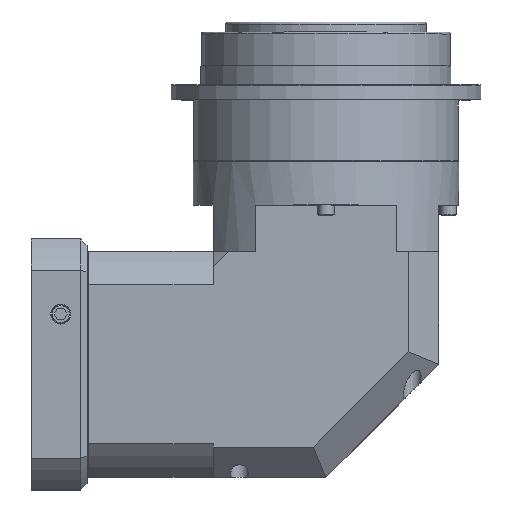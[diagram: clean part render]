
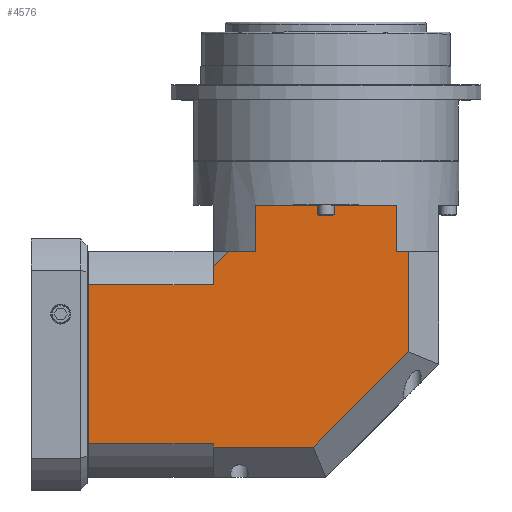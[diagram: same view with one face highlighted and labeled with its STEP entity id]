
A CAD part, top view. The second image highlights one B-rep face of the part: STEP entity #4576.
In plain terms, the highlighted planar face has unit normal (0, 0, 1).
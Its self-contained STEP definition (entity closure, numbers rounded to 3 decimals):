
#4218=CARTESIAN_POINT('',(-56.,90.,90.));
#4219=VERTEX_POINT('',#4218);
#4227=CARTESIAN_POINT('',(-56.,127.,90.));
#4228=VERTEX_POINT('',#4227);
#4229=CARTESIAN_POINT('',(-56.,90.,90.0));
#4230=DIRECTION('',(0.0,1.0,0.0));
#4231=VECTOR('',#4230,37.);
#4232=LINE('',#4229,#4231);
#4233=EDGE_CURVE('',#4219,#4228,#4232,.T.);
#4235=CARTESIAN_POINT('',(56.,127.,90.));
#4236=VERTEX_POINT('',#4235);
#4244=CARTESIAN_POINT('',(56.,90.,90.));
#4245=VERTEX_POINT('',#4244);
#4246=CARTESIAN_POINT('',(56.,127.,90.));
#4247=DIRECTION('',(0.0,-1.0,0.0));
#4248=VECTOR('',#4247,37.);
#4249=LINE('',#4246,#4248);
#4250=EDGE_CURVE('',#4236,#4245,#4249,.T.);
#4434=CARTESIAN_POINT('',(-78.,90.,90.));
#4435=VERTEX_POINT('',#4434);
#4442=CARTESIAN_POINT('',(-78.,90.,90.0));
#4443=DIRECTION('',(1.0,0.0,0.0));
#4444=VECTOR('',#4443,22.);
#4445=LINE('',#4442,#4444);
#4446=EDGE_CURVE('',#4435,#4219,#4445,.T.);
#4464=CARTESIAN_POINT('',(-90.0,78.,90.0));
#4465=VERTEX_POINT('',#4464);
#4466=CARTESIAN_POINT('',(-90.,63.246,90.0));
#4467=VERTEX_POINT('',#4466);
#4468=CARTESIAN_POINT('',(-90.0,78.,90.0));
#4469=DIRECTION('',(0.0,-1.0,0.0));
#4470=VECTOR('',#4469,14.754);
#4471=LINE('',#4468,#4470);
#4472=EDGE_CURVE('',#4465,#4467,#4471,.T.);
#4491=CARTESIAN_POINT('',(-189.5,162.,90.0));
#4492=DIRECTION('',(0.0,0.0,1.0));
#4493=DIRECTION('',(1.0,0.0,0.0));
#4494=AXIS2_PLACEMENT_3D('',#4491,#4492,#4493);
#4495=PLANE('',#4494);
#4496=ORIENTED_EDGE('',*,*,#4446,.F.);
#4497=CARTESIAN_POINT('',(-78.,90.,90.0));
#4498=DIRECTION('',(-0.707,-0.707,0.0));
#4499=VECTOR('',#4498,16.971);
#4500=LINE('',#4497,#4499);
#4501=EDGE_CURVE('',#4435,#4465,#4500,.T.);
#4502=ORIENTED_EDGE('',*,*,#4501,.T.);
#4503=ORIENTED_EDGE('',*,*,#4472,.T.);
#4504=CARTESIAN_POINT('',(-189.,63.246,90.0));
#4505=VERTEX_POINT('',#4504);
#4506=CARTESIAN_POINT('',(-90.,63.246,90.0));
#4507=DIRECTION('',(-1.0,0.0,0.0));
#4508=VECTOR('',#4507,99.);
#4509=LINE('',#4506,#4508);
#4510=EDGE_CURVE('',#4467,#4505,#4509,.T.);
#4511=ORIENTED_EDGE('',*,*,#4510,.T.);
#4512=CARTESIAN_POINT('',(-189.,-63.246,90.0));
#4513=VERTEX_POINT('',#4512);
#4514=CARTESIAN_POINT('',(-189.,63.246,90.0));
#4515=DIRECTION('',(0.0,-1.0,0.0));
#4516=VECTOR('',#4515,126.491);
#4517=LINE('',#4514,#4516);
#4518=EDGE_CURVE('',#4505,#4513,#4517,.T.);
#4519=ORIENTED_EDGE('',*,*,#4518,.T.);
#4520=CARTESIAN_POINT('',(-90.,-63.246,90.0));
#4521=VERTEX_POINT('',#4520);
#4522=CARTESIAN_POINT('',(-189.,-63.246,90.0));
#4523=DIRECTION('',(1.0,0.0,0.0));
#4524=VECTOR('',#4523,99.);
#4525=LINE('',#4522,#4524);
#4526=EDGE_CURVE('',#4513,#4521,#4525,.T.);
#4527=ORIENTED_EDGE('',*,*,#4526,.T.);
#4528=CARTESIAN_POINT('',(-90.0,-66.,90.));
#4529=VERTEX_POINT('',#4528);
#4530=CARTESIAN_POINT('',(-90.0,-63.246,90.0));
#4531=DIRECTION('',(0.0,-1.0,0.0));
#4532=VECTOR('',#4531,2.754);
#4533=LINE('',#4530,#4532);
#4534=EDGE_CURVE('',#4521,#4529,#4533,.T.);
#4535=ORIENTED_EDGE('',*,*,#4534,.T.);
#4536=CARTESIAN_POINT('',(-9.941,-66.0,90.0));
#4537=VERTEX_POINT('',#4536);
#4538=CARTESIAN_POINT('',(-90.0,-66.0,90.0));
#4539=DIRECTION('',(1.0,0.0,0.0));
#4540=VECTOR('',#4539,80.059);
#4541=LINE('',#4538,#4540);
#4542=EDGE_CURVE('',#4529,#4537,#4541,.T.);
#4543=ORIENTED_EDGE('',*,*,#4542,.T.);
#4544=CARTESIAN_POINT('',(66.,9.941,90.0));
#4545=VERTEX_POINT('',#4544);
#4546=CARTESIAN_POINT('',(-9.941,-66.0,90.0));
#4547=DIRECTION('',(0.707,0.707,0.0));
#4548=VECTOR('',#4547,107.397);
#4549=LINE('',#4546,#4548);
#4550=EDGE_CURVE('',#4537,#4545,#4549,.T.);
#4551=ORIENTED_EDGE('',*,*,#4550,.T.);
#4552=CARTESIAN_POINT('',(66.,90.,90.0));
#4553=VERTEX_POINT('',#4552);
#4554=CARTESIAN_POINT('',(66.,9.941,90.0));
#4555=DIRECTION('',(0.0,1.0,0.0));
#4556=VECTOR('',#4555,80.059);
#4557=LINE('',#4554,#4556);
#4558=EDGE_CURVE('',#4545,#4553,#4557,.T.);
#4559=ORIENTED_EDGE('',*,*,#4558,.T.);
#4560=CARTESIAN_POINT('',(66.,90.,90.0));
#4561=DIRECTION('',(-1.0,0.0,0.0));
#4562=VECTOR('',#4561,10.);
#4563=LINE('',#4560,#4562);
#4564=EDGE_CURVE('',#4553,#4245,#4563,.T.);
#4565=ORIENTED_EDGE('',*,*,#4564,.T.);
#4566=ORIENTED_EDGE('',*,*,#4250,.F.);
#4567=CARTESIAN_POINT('',(56.,127.,90.0));
#4568=DIRECTION('',(-1.0,0.0,0.0));
#4569=VECTOR('',#4568,112.);
#4570=LINE('',#4567,#4569);
#4571=EDGE_CURVE('',#4236,#4228,#4570,.T.);
#4572=ORIENTED_EDGE('',*,*,#4571,.T.);
#4573=ORIENTED_EDGE('',*,*,#4233,.F.);
#4574=EDGE_LOOP('',(#4496,#4502,#4503,#4511,#4519,#4527,#4535,#4543,#4551,#4559,#4565,#4566,#4572,#4573));
#4575=FACE_OUTER_BOUND('',#4574,.T.);
#4576=ADVANCED_FACE('',(#4575),#4495,.T.);
